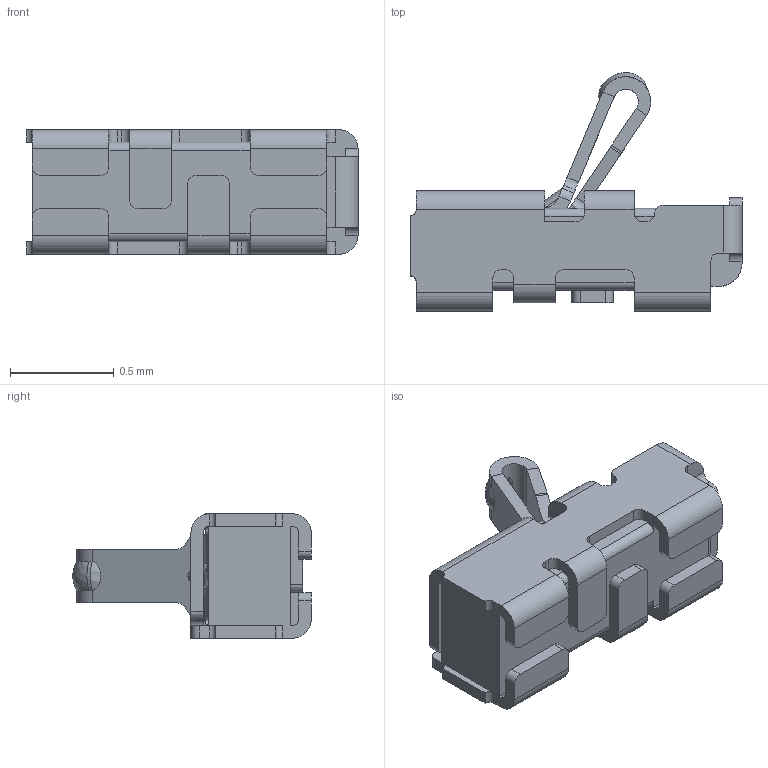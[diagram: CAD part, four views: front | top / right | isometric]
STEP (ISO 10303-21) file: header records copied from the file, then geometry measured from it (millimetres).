
FILE_DESCRIPTION((''),'2;1');
FILE_NAME('3D-2014032-0A-00','2022-04-26T',('TPS'),(''),'CREO PARAMETRIC BY PTC INC, 2015290','CREO PARAMETRIC BY PTC INC, 2015290','');
FILE_SCHEMA(('CONFIG_CONTROL_DESIGN'));
Length unit declared in the file: millimetre
Products named in the file (1): 3D-2014032-0A-00
Bounding box: 1.6 x 1.15 x 0.6 mm (x, y, z)
Volume: 0.4 mm3; surface area: 6.4 mm2
Topology: 1 solids, 1 shells, 244 faces, 710 edges, 465 vertices
Faces by surface type: plane 130, cylinder 104, bspline 8, sphere 2
Entity records: 8531 total; most frequent: CARTESIAN_POINT 1963, ORIENTED_EDGE 1416, DIRECTION 1351, EDGE_CURVE 708, VERTEX_POINT 465, AXIS2_PLACEMENT_3D 451, VECTOR 449, LINE 449
